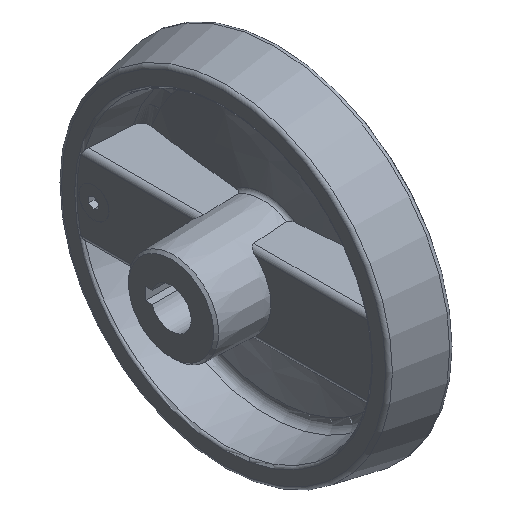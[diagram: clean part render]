
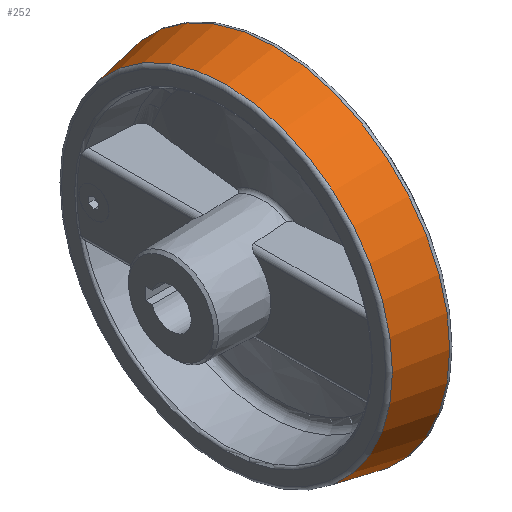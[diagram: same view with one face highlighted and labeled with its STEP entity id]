
A CAD part, isometric view. The second image highlights one B-rep face of the part: STEP entity #252.
In plain terms, the highlighted conical face has half-angle 10.857 degrees and reference radius 66.287 mm.
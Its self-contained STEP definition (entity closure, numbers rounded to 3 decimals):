
#252 = ADVANCED_FACE( '', ( #473, #474 ), #475, .T. );
#473 = FACE_OUTER_BOUND( '', #912, .T. );
#474 = FACE_BOUND( '', #913, .T. );
#475 = CONICAL_SURFACE( '', #914, 66.287, 0.189 );
#912 = EDGE_LOOP( '', ( #1611 ) );
#913 = EDGE_LOOP( '', ( #1612 ) );
#914 = AXIS2_PLACEMENT_3D( '', #1613, #1614, #1615 );
#1611 = ORIENTED_EDGE( '', *, *, #2042, .F. );
#1612 = ORIENTED_EDGE( '', *, *, #2043, .T. );
#1613 = CARTESIAN_POINT( '', ( 22.217, 0., 0. ) );
#1614 = DIRECTION( '', ( 1., 0., 0. ) );
#1615 = DIRECTION( '', ( 0., 0., -1. ) );
#2042 = EDGE_CURVE( '', #2439, #2439, #2440, .T. );
#2043 = EDGE_CURVE( '', #2441, #2441, #2442, .T. );
#2439 = VERTEX_POINT( '', #3481 );
#2440 = CIRCLE( '', #3482, 69.973 );
#2441 = VERTEX_POINT( '', #3483 );
#2442 = CIRCLE( '', #3484, 66.287 );
#3481 = CARTESIAN_POINT( '', ( 41.437, 0., -69.973 ) );
#3482 = AXIS2_PLACEMENT_3D( '', #3861, #3862, #3863 );
#3483 = CARTESIAN_POINT( '', ( 22.217, 0., -66.287 ) );
#3484 = AXIS2_PLACEMENT_3D( '', #3864, #3865, #3866 );
#3861 = CARTESIAN_POINT( '', ( 41.437, 0., 0. ) );
#3862 = DIRECTION( '', ( 1., 0., 0. ) );
#3863 = DIRECTION( '', ( 0., 0., -1. ) );
#3864 = CARTESIAN_POINT( '', ( 22.217, 0., 0. ) );
#3865 = DIRECTION( '', ( 1., 0., 0. ) );
#3866 = DIRECTION( '', ( 0., 0., -1. ) );
